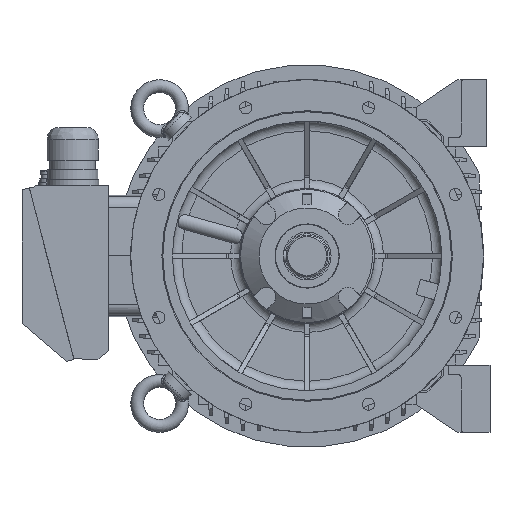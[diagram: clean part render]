
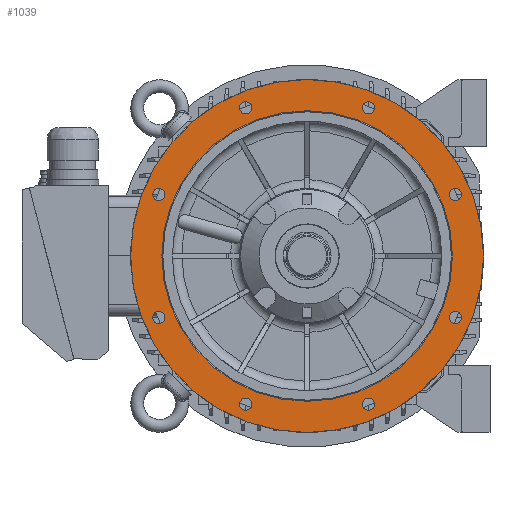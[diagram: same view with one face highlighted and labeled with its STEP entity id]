
A CAD part, front view. The second image highlights one B-rep face of the part: STEP entity #1039.
In plain terms, the highlighted planar face has unit normal (0, -1, 0).
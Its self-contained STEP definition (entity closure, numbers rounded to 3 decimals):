
#1039 = ADVANCED_FACE( '', ( #3113, #3114, #3115, #3116, #3117, #3118, #3119, #3120, #3121, #3122 ), #3123, .F. );
#3113 = FACE_BOUND( '', #10539, .T. );
#3114 = FACE_BOUND( '', #10540, .T. );
#3115 = FACE_BOUND( '', #10541, .T. );
#3116 = FACE_BOUND( '', #10542, .T. );
#3117 = FACE_BOUND( '', #10543, .T. );
#3118 = FACE_OUTER_BOUND( '', #10544, .T. );
#3119 = FACE_BOUND( '', #10545, .T. );
#3120 = FACE_BOUND( '', #10546, .T. );
#3121 = FACE_BOUND( '', #10547, .T. );
#3122 = FACE_BOUND( '', #10548, .T. );
#3123 = PLANE( '', #10549 );
#10539 = EDGE_LOOP( '', ( #17931 ) );
#10540 = EDGE_LOOP( '', ( #17932 ) );
#10541 = EDGE_LOOP( '', ( #17933 ) );
#10542 = EDGE_LOOP( '', ( #17934 ) );
#10543 = EDGE_LOOP( '', ( #17935 ) );
#10544 = EDGE_LOOP( '', ( #17936 ) );
#10545 = EDGE_LOOP( '', ( #17937 ) );
#10546 = EDGE_LOOP( '', ( #17938 ) );
#10547 = EDGE_LOOP( '', ( #17939 ) );
#10548 = EDGE_LOOP( '', ( #17940 ) );
#10549 = AXIS2_PLACEMENT_3D( '', #17941, #17942, #17943 );
#17931 = ORIENTED_EDGE( '', *, *, #22806, .F. );
#17932 = ORIENTED_EDGE( '', *, *, #22807, .F. );
#17933 = ORIENTED_EDGE( '', *, *, #22808, .F. );
#17934 = ORIENTED_EDGE( '', *, *, #22809, .F. );
#17935 = ORIENTED_EDGE( '', *, *, #22810, .F. );
#17936 = ORIENTED_EDGE( '', *, *, #22811, .T. );
#17937 = ORIENTED_EDGE( '', *, *, #22812, .F. );
#17938 = ORIENTED_EDGE( '', *, *, #22813, .F. );
#17939 = ORIENTED_EDGE( '', *, *, #22814, .F. );
#17940 = ORIENTED_EDGE( '', *, *, #22815, .F. );
#17941 = CARTESIAN_POINT( '', ( -226.4, -95.997, 0. ) );
#17942 = DIRECTION( '', ( 0., 1., 0. ) );
#17943 = DIRECTION( '', ( -1., 0., 0. ) );
#22806 = EDGE_CURVE( '', #27374, #27374, #27375, .F. );
#22807 = EDGE_CURVE( '', #27376, #27376, #27377, .F. );
#22808 = EDGE_CURVE( '', #27378, #27378, #27379, .F. );
#22809 = EDGE_CURVE( '', #27380, #27380, #27381, .F. );
#22810 = EDGE_CURVE( '', #27382, #27382, #27383, .T. );
#22811 = EDGE_CURVE( '', #27384, #27384, #27385, .T. );
#22812 = EDGE_CURVE( '', #27386, #27386, #27387, .F. );
#22813 = EDGE_CURVE( '', #27388, #27388, #27389, .F. );
#22814 = EDGE_CURVE( '', #27390, #27390, #27391, .F. );
#22815 = EDGE_CURVE( '', #27392, #27392, #27393, .F. );
#27374 = VERTEX_POINT( '', #39346 );
#27375 = CIRCLE( '', #39347, 9.5 );
#27376 = VERTEX_POINT( '', #39348 );
#27377 = CIRCLE( '', #39349, 9.5 );
#27378 = VERTEX_POINT( '', #39350 );
#27379 = CIRCLE( '', #39351, 9.5 );
#27380 = VERTEX_POINT( '', #39352 );
#27381 = CIRCLE( '', #39353, 9.5 );
#27382 = VERTEX_POINT( '', #39354 );
#27383 = CIRCLE( '', #39355, 226.4 );
#27384 = VERTEX_POINT( '', #39356 );
#27385 = CIRCLE( '', #39357, 275. );
#27386 = VERTEX_POINT( '', #39358 );
#27387 = CIRCLE( '', #39359, 9.5 );
#27388 = VERTEX_POINT( '', #39360 );
#27389 = CIRCLE( '', #39361, 9.5 );
#27390 = VERTEX_POINT( '', #39362 );
#27391 = CIRCLE( '', #39363, 9.5 );
#27392 = VERTEX_POINT( '', #39364 );
#27393 = CIRCLE( '', #39365, 9.5 );
#39346 = CARTESIAN_POINT( '', ( 221.47, -95.997, 95.671 ) );
#39347 = AXIS2_PLACEMENT_3D( '', #46513, #46514, #46515 );
#39348 = CARTESIAN_POINT( '', ( 86.171, -95.997, -230.97 ) );
#39349 = AXIS2_PLACEMENT_3D( '', #46516, #46517, #46518 );
#39350 = CARTESIAN_POINT( '', ( -240.47, -95.997, -95.671 ) );
#39351 = AXIS2_PLACEMENT_3D( '', #46519, #46520, #46521 );
#39352 = CARTESIAN_POINT( '', ( -105.171, -95.997, 230.97 ) );
#39353 = AXIS2_PLACEMENT_3D( '', #46522, #46523, #46524 );
#39354 = CARTESIAN_POINT( '', ( 226.4, -95.997, 0. ) );
#39355 = AXIS2_PLACEMENT_3D( '', #46525, #46526, #46527 );
#39356 = CARTESIAN_POINT( '', ( 275., -95.997, 0. ) );
#39357 = AXIS2_PLACEMENT_3D( '', #46528, #46529, #46530 );
#39358 = CARTESIAN_POINT( '', ( -240.47, -95.997, 95.671 ) );
#39359 = AXIS2_PLACEMENT_3D( '', #46531, #46532, #46533 );
#39360 = CARTESIAN_POINT( '', ( -105.171, -95.997, -230.97 ) );
#39361 = AXIS2_PLACEMENT_3D( '', #46534, #46535, #46536 );
#39362 = CARTESIAN_POINT( '', ( 221.47, -95.997, -95.671 ) );
#39363 = AXIS2_PLACEMENT_3D( '', #46537, #46538, #46539 );
#39364 = CARTESIAN_POINT( '', ( 86.171, -95.997, 230.97 ) );
#39365 = AXIS2_PLACEMENT_3D( '', #46540, #46541, #46542 );
#46513 = CARTESIAN_POINT( '', ( 230.97, -95.997, 95.671 ) );
#46514 = DIRECTION( '', ( 0., 1., 0. ) );
#46515 = DIRECTION( '', ( -1., 0., 0. ) );
#46516 = CARTESIAN_POINT( '', ( 95.671, -95.997, -230.97 ) );
#46517 = DIRECTION( '', ( 0., 1., 0. ) );
#46518 = DIRECTION( '', ( -1., 0., 0. ) );
#46519 = CARTESIAN_POINT( '', ( -230.97, -95.997, -95.671 ) );
#46520 = DIRECTION( '', ( 0., 1., 0. ) );
#46521 = DIRECTION( '', ( -1., 0., 0. ) );
#46522 = CARTESIAN_POINT( '', ( -95.671, -95.997, 230.97 ) );
#46523 = DIRECTION( '', ( 0., 1., 0. ) );
#46524 = DIRECTION( '', ( -1., 0., 0. ) );
#46525 = CARTESIAN_POINT( '', ( 0., -95.997, 0. ) );
#46526 = DIRECTION( '', ( 0., -1., 0. ) );
#46527 = DIRECTION( '', ( 1., 0., 0. ) );
#46528 = CARTESIAN_POINT( '', ( 0., -95.997, 0. ) );
#46529 = DIRECTION( '', ( 0., -1., 0. ) );
#46530 = DIRECTION( '', ( 1., 0., 0. ) );
#46531 = CARTESIAN_POINT( '', ( -230.97, -95.997, 95.671 ) );
#46532 = DIRECTION( '', ( 0., 1., 0. ) );
#46533 = DIRECTION( '', ( -1., 0., 0. ) );
#46534 = CARTESIAN_POINT( '', ( -95.671, -95.997, -230.97 ) );
#46535 = DIRECTION( '', ( 0., 1., 0. ) );
#46536 = DIRECTION( '', ( -1., 0., 0. ) );
#46537 = CARTESIAN_POINT( '', ( 230.97, -95.997, -95.671 ) );
#46538 = DIRECTION( '', ( 0., 1., 0. ) );
#46539 = DIRECTION( '', ( -1., 0., 0. ) );
#46540 = CARTESIAN_POINT( '', ( 95.671, -95.997, 230.97 ) );
#46541 = DIRECTION( '', ( 0., 1., 0. ) );
#46542 = DIRECTION( '', ( -1., 0., 0. ) );
